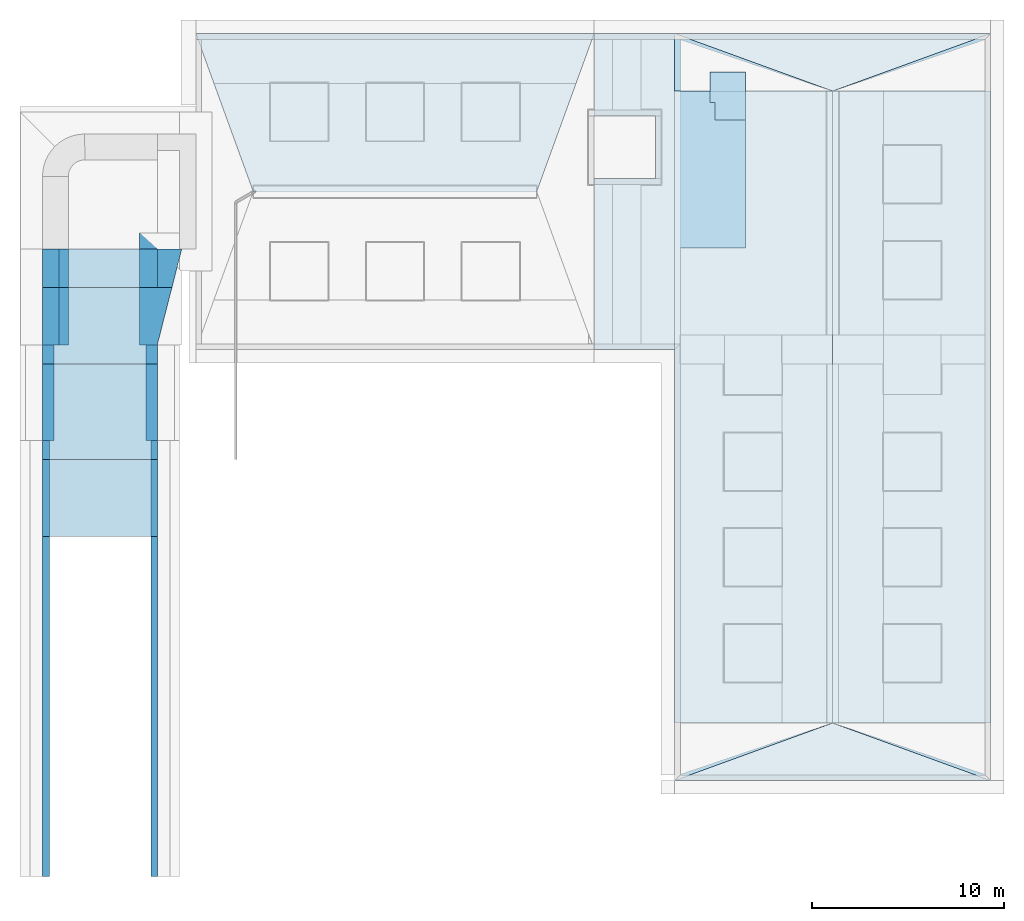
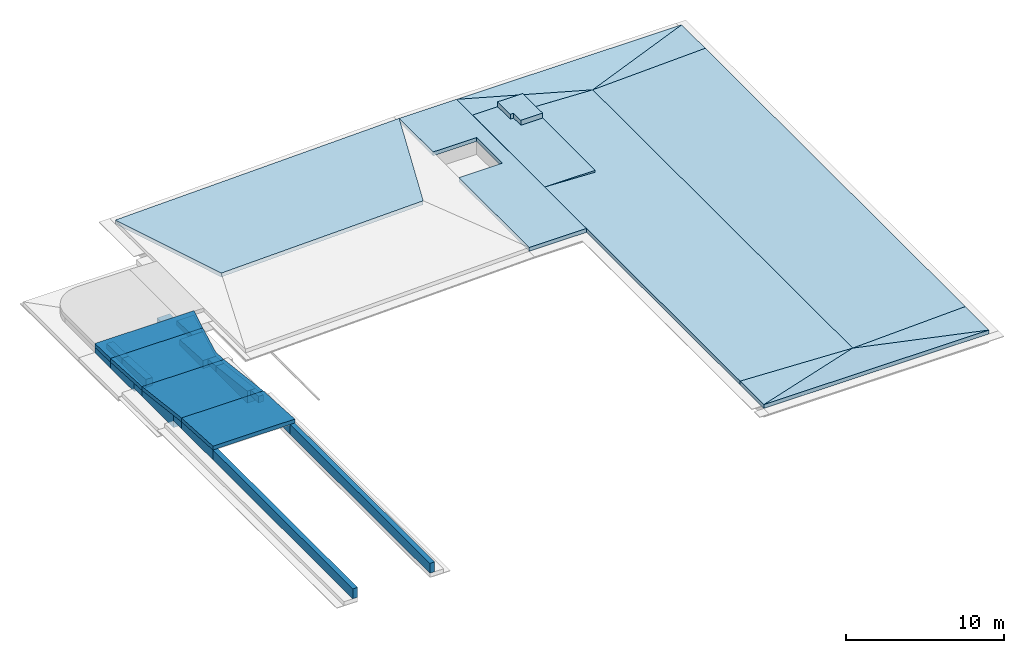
# One storey, part 5 of 8: 21 ramps, 12 slabs.
"""IFC4 building model written with IfcOpenShell, lengths in millimetres."""

from ifc_helpers import new_model, entity, si_unit, converted_unit, derived_unit, direction, frame, origin_with_axes, place, context, subcontext, project, spatial, polygons, material, type_object, element, save


model = new_model("IFC4")

# Units and contexts
model_context = context("Model", 3, precision=0.01, world=origin_with_axes(), true_north=direction((0.0, 1.0)))
body_context = subcontext(model_context, "Body", "Model", "MODEL_VIEW")
ifc_project = project(units=[si_unit("LENGTHUNIT", "METRE", prefix="MILLI"), si_unit("AREAUNIT", "SQUARE_METRE"), si_unit("VOLUMEUNIT", "CUBIC_METRE"), converted_unit("PLANEANGLEUNIT", "DEGREE", entity("IfcPlaneAngleMeasure", 0.0174532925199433), si_unit("PLANEANGLEUNIT", "RADIAN"), dimensions=[0, 0, 0, 0, 0, 0, 0]), converted_unit("TIMEUNIT", "Year", entity("IfcTimeMeasure", 31557600.0), si_unit("TIMEUNIT", "SECOND"), dimensions=[0, 0, 1, 0, 0, 0, 0]), si_unit("MASSUNIT", "GRAM", prefix="KILO"), si_unit("THERMODYNAMICTEMPERATUREUNIT", "DEGREE_CELSIUS"), si_unit("LUMINOUSINTENSITYUNIT", "LUMEN"), si_unit("ENERGYUNIT", "JOULE", prefix="MEGA"), derived_unit("THERMALCONDUCTANCEUNIT", [(si_unit("POWERUNIT", "WATT"), 1), (si_unit("LENGTHUNIT", "METRE"), -1), (si_unit("THERMODYNAMICTEMPERATUREUNIT", "KELVIN"), -1)]), derived_unit("SPECIFICHEATCAPACITYUNIT", [(si_unit("ENERGYUNIT", "JOULE"), 1), (si_unit("MASSUNIT", "GRAM", prefix="KILO"), -1), (si_unit("THERMODYNAMICTEMPERATUREUNIT", "KELVIN"), -1)]), derived_unit("MASSDENSITYUNIT", [(si_unit("MASSUNIT", "GRAM", prefix="KILO"), 1), (si_unit("VOLUMEUNIT", "CUBIC_METRE"), -1)])], contexts=[model_context])

# Site, building, storey
site_placement = place(None, origin_with_axes())
site = spatial("IfcSite", under=ifc_project, at=site_placement, Name="Gelände", CompositionType="ELEMENT")
building_placement = place(site_placement, origin_with_axes())
building = spatial("IfcBuilding", under=site, at=building_placement, Name="Gebäude", CompositionType="ELEMENT")
storey_placement = place(building_placement, frame((0.0, 0.0, -6000.0), z_axis=(0.0, 0.0, 1.0), x_axis=(1.0, 0.0, 0.0)))
storey = spatial("IfcBuildingStorey", under=building, at=storey_placement, Name="Fundation", CompositionType="ELEMENT", Elevation=-6000.0)

# Slabs
ifc_material_1 = material(Name="Beton bewehrt")
slab_type_1 = type_object("IfcSlabType", Name="Beton bewehrt 300", PredefinedType="NOTDEFINED")
slab_1_placement = place(storey_placement, frame((32928.9974447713, 447.5972813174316, 2398.190457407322), z_axis=(0.0, 0.0, 1.0), x_axis=(-1.0, 0.0, 0.0)))
element("IfcSlab", 1, at=slab_1_placement, inside=storey, type_object=slab_type_1, material=ifc_material_1, Name="Dach-009", PredefinedType="NOTDEFINED", context=body_context, shape_type="Tessellation", body=[
    polygons([(8250.000000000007, -2999.999999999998, -28.19045740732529), (16500.00000000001, 0.0, 301.8095425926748), (0.0, 0.0, 301.8095425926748), (8250.000000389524, -2999.999999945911, -329.9999998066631), (16500.00000039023, 3.870073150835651e-07, 2.299582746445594e-07), (3.88823195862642e-07, 3.870073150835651e-07, 2.299582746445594e-07)], [[[1, 2, 3]], [[2, 1, 4, 5]], [[3, 2, 5, 6]], [[1, 3, 6, 4]], [[5, 4, 6]]], closed=True),
])
slab_2_placement = place(storey_placement, frame((24678.99744477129, 447.5972813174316, 2069.760095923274), z_axis=(0.0, 0.0, 1.0), x_axis=(0.0, 1.0, 0.0)))
element("IfcSlab", 2, at=slab_2_placement, inside=storey, type_object=slab_type_1, material=ifc_material_1, Name="Dach-009", PredefinedType="NOTDEFINED", context=body_context, shape_type="Tessellation", body=[
    polygons([(0.0, -8250.000000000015, 630.2399040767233), (2999.999999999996, -8250.00000000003, 630.2399040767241), (3000.0, 0.0, 300.2399040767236), (-3.895839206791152e-07, -8250.000000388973, 330.0000002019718), (2999.999999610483, -8250.000000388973, 330.0000002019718), (2999.999999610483, -4.024514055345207e-08, 1.88022930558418e-07)], [[[1, 2, 3]], [[2, 1, 4, 5]], [[3, 2, 5, 6]], [[1, 3, 6, 4]], [[5, 4, 6]]], closed=True),
])
slab_3_placement = place(storey_placement, frame((16428.99744477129, 39447.59728131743, 2398.190457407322), z_axis=(0.0, 0.0, 1.0), x_axis=(1.0, 0.0, 0.0)))
element("IfcSlab", 3, at=slab_3_placement, inside=storey, type_object=slab_type_1, material=ifc_material_1, Name="Dach-009", PredefinedType="NOTDEFINED", context=body_context, shape_type="Tessellation", body=[
    polygons([(16500.00000000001, 0.0, 301.8095425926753), (0.0, 0.0, 301.8095425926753), (8250.000000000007, -3000.0, -28.19045740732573), (16500.00000039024, 3.870184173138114e-07, 2.299591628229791e-07), (3.888303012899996e-07, 3.870184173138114e-07, 2.299591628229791e-07), (8250.000000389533, -2999.999999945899, -329.9999998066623)], [[[1, 2, 3]], [[2, 1, 4, 5]], [[3, 2, 5, 6]], [[1, 3, 6, 4]], [[5, 4, 6]]], closed=True),
])
slab_4_placement = place(storey_placement, frame((24678.9974447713, 36447.59728131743, 2069.760095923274), z_axis=(0.0, 0.0, 1.0), x_axis=(0.0, 1.0, 0.0)))
element("IfcSlab", 4, at=slab_4_placement, inside=storey, type_object=slab_type_1, material=ifc_material_1, Name="Dach-009", PredefinedType="NOTDEFINED", context=body_context, shape_type="Tessellation", body=[
    polygons([(3000.0, -8250.000000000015, 630.2399040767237), (0.0, 0.0, 300.2399040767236), (0.0, -8250.00000000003, 630.2399040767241), (2999.999999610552, -8250.000000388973, 330.0000002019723), (-3.895195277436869e-07, -4.024514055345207e-08, 1.88022930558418e-07), (-3.895195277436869e-07, -8250.000000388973, 330.0000002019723)], [[[1, 2, 3]], [[2, 1, 4, 5]], [[3, 2, 5, 6]], [[1, 3, 6, 4]], [[5, 4, 6]]], closed=True),
])
slab_5_placement = place(storey_placement, frame((24678.9974447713, 39447.59728131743, 2069.760095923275), z_axis=(0.0, 0.0, 1.0), x_axis=(0.0, -1.0, 0.0)))
element("IfcSlab", 5, at=slab_5_placement, inside=storey, type_object=slab_type_1, material=ifc_material_1, Name="Dach-009", PredefinedType="NOTDEFINED", context=body_context, shape_type="Tessellation", body=[
    polygons([(0.0, -8250.000000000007, 630.2399040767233), (3000.0, -8250.000000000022, 630.2399040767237), (3000.0, 0.0, 300.2399040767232), (-3.895905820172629e-07, -8250.000000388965, 330.0000002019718), (2999.999999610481, -8250.000000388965, 330.0000002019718), (2999.999999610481, -4.023803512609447e-08, 1.88022930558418e-07)], [[[1, 2, 3]], [[2, 1, 4, 5]], [[3, 2, 5, 6]], [[1, 3, 6, 4]], [[5, 4, 6]]], closed=True),
])
slab_6_placement = place(storey_placement, frame((24678.99744477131, 3447.597281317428, 2069.760095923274), z_axis=(0.0, 0.0, 1.0), x_axis=(0.0, 1.0, 0.0)))
element("IfcSlab", 6, at=slab_6_placement, inside=storey, type_object=slab_type_1, material=ifc_material_1, Name="Dach-009", PredefinedType="NOTDEFINED", context=body_context, shape_type="Tessellation", body=[
    polygons([(33000.0, 0.0, 300.2399040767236), (0.0, 0.0, 300.2399040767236), (0.0, -8250.00000000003, 630.2399040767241), (33000.0, -8250.000000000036, 630.239904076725), (32999.99999961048, -4.04405398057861e-08, 1.880313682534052e-07), (-3.895195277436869e-07, -4.04405398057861e-08, 1.880313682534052e-07), (-3.895177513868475e-07, -8250.00000038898, 330.0000002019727), (32999.99999961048, -8250.00000038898, 330.0000002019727)], [[[1, 2, 3, 4]], [[2, 1, 5, 6]], [[3, 2, 6, 7]], [[4, 3, 7, 8]], [[1, 4, 8, 5]], [[6, 5, 8, 7]]], closed=True),
])
slab_7_placement = place(storey_placement, frame((12228.99744477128, 39447.59728131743, 2699.999999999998), z_axis=(0.0, 0.0, 1.0), x_axis=(1.0, 0.0, 0.0)))
element("IfcSlab", 7, at=slab_7_placement, inside=storey, type_object=slab_type_1, material=ifc_material_1, Name="Deckennr.-068", PredefinedType="NOTDEFINED", context=body_context, shape_type="Tessellation", body=[
    polygons([(3.043525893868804, -2.384187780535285e-05, -299.9999999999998), (3.043525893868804, -2.384187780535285e-05, -279.766668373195), (0.0, -2.384187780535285e-05, -279.8574207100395), (0.0, 0.0, 0.0), (4200.000000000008, 0.0, 0.0), (4200.000000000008, 0.0, -299.9999999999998), (3.043525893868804, -300.000023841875, -279.766668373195), (3.043525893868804, -300.000023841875, -299.9999999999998), (0.0, -300.000023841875, -279.857420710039), (0.0, -300.000023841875, -299.9999999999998), (0.0, -4299.999999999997, -299.9999999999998), (0.0, -4299.999999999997, 0.0), (4200.000000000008, -16500.0, 0.0), (3200.000000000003, -4299.999999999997, 0.0), (3200.000000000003, -7574.999999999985, 0.0), (0.0, -7574.999999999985, 0.0), (0.0, -16500.0, 0.0), (4200.000000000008, -16500.0, -299.9999999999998), (0.0, -16500.0, -299.9999999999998), (0.0, -7574.999999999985, -299.9999999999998), (3200.000000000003, -7574.999999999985, -299.9999999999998), (3200.000000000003, -4299.999999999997, -299.9999999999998)], [[[1, 2, 3, 4, 5, 6]], [[7, 2, 1, 8]], [[9, 3, 2, 7]], [[3, 9, 10, 11, 12, 4]], [[13, 5, 4, 12, 14, 15, 16, 17]], [[5, 13, 18, 6]], [[10, 8, 1, 6, 18, 19, 20, 21, 22, 11]], [[7, 8, 10, 9]], [[14, 12, 11, 22]], [[15, 14, 22, 21]], [[16, 15, 21, 20]], [[17, 16, 20, 19]], [[13, 17, 19, 18]]], closed=True),
])
slab_8_placement = place(storey_placement, frame((24678.99744477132, 3447.597281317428, 2069.760095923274), z_axis=(0.0, 0.0, 1.0), x_axis=(0.0, -1.0, 0.0)))
element("IfcSlab", 8, at=slab_8_placement, inside=storey, type_object=slab_type_1, material=ifc_material_1, Name="Dach-009", PredefinedType="NOTDEFINED", context=body_context, shape_type="Tessellation", body=[
    polygons([(2999.999999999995, -8250.000000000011, 630.2399040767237), (0.0, 0.0, 300.2399040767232), (0.0, -8250.000000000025, 630.2399040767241), (2999.999999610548, -8250.000000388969, 330.0000002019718), (-3.895199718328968e-07, -4.024158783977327e-08, 1.88022930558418e-07), (-3.895199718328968e-07, -8250.000000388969, 330.0000002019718)], [[[1, 2, 3]], [[2, 1, 4, 5]], [[3, 2, 5, 6]], [[1, 3, 6, 4]], [[5, 4, 6]]], closed=True),
])
slab_9_placement = place(storey_placement, frame((24678.99744477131, 36447.59728131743, 2069.760095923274), z_axis=(0.0, 0.0, 1.0), x_axis=(0.0, -1.0, 0.0)))
element("IfcSlab", 9, at=slab_9_placement, inside=storey, type_object=slab_type_1, material=ifc_material_1, Name="Dach-009", PredefinedType="NOTDEFINED", context=body_context, shape_type="Tessellation", body=[
    polygons([(0.0, -8250.00000000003, 630.2399040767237), (33000.0, -8250.000000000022, 630.2399040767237), (33000.0, 0.0, 300.2399040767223), (0.0, 0.0, 300.2399040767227), (-3.895195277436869e-07, -8250.000000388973, 330.0000002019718), (32999.99999961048, -8250.000000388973, 330.0000002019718), (32999.99999961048, -4.04334343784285e-08, 1.880300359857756e-07), (-3.895195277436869e-07, -4.04334343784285e-08, 1.880300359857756e-07)], [[[1, 2, 3, 4]], [[2, 1, 5, 6]], [[3, 2, 6, 7]], [[4, 3, 7, 8]], [[1, 4, 8, 5]], [[6, 5, 8, 7]]], closed=True),
])
slab_10_placement = place(storey_placement, frame((13728.998626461, 38005.28956516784, 2399.923207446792), z_axis=(0.0, 0.0, 1.0), x_axis=(-0.7208330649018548, 0.6931087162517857, 0.0)))
element("IfcSlab", 10, at=slab_10_placement, inside=storey, type_object=slab_type_1, material=ifc_material_1, Name="Dach-008", PredefinedType="NOTDEFINED", context=body_context, shape_type="Tessellation", body=[
    polygons([(-1474.721232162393, 8026.199753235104, -33.9616848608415), (2080.926431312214, 0.0008031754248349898, 300.0767591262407), (17074.2541977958, 14416.66208402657, -299.9232074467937), (9193.608059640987, 18284.20868766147, -460.8847357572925), (-1474.721232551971, 8026.199753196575, -334.0384775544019), (2080.92643122, 0.0008027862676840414, -3.355272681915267e-05), (17074.25419787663, 14416.6620843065, -600.0000001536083), (9193.608059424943, 18284.20868742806, -760.9615284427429)], [[[1, 2, 3, 4]], [[2, 1, 5, 6]], [[3, 2, 6, 7]], [[4, 3, 7, 8]], [[1, 4, 8, 5]], [[6, 5, 8, 7]]], closed=True),
])
slab_type_2 = type_object("IfcSlabType", Name="Beton bewehrt 528", PredefinedType="NOTDEFINED")
slab_11_placement = place(storey_placement, frame((18285.42683944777, 37437.5972813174, 3080.000103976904), z_axis=(0.0, 0.0, 1.0), x_axis=(1.0, 0.0, 0.0)))
element("IfcSlab", 11, at=slab_11_placement, inside=storey, type_object=slab_type_2, material=ifc_material_1, Name="Deckennr.-073", PredefinedType="NOTDEFINED", context=body_context, shape_type="Tessellation", body=[
    polygons([(1843.570605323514, -989.9999999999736, -528.0001039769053), (1843.570605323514, 0.0, -528.0001039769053), (1843.570605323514, 0.0, 0.0), (1843.570605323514, -2511.666666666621, 0.0), (1843.570605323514, -2511.666666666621, -528.0001039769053), (0.0, 0.0, -454.257279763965), (0.0, -989.9999999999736, -454.257279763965), (0.0, 0.0, 0.0), (0.0, -1599.999998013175, 0.0), (243.5705982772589, -1599.999998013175, 0.0), (243.5705982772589, -2511.666666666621, 0.0), (243.5705982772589, -2511.666666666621, -528.0001039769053), (0.0, -989.9999999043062, -528.0001039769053), (243.5705982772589, -1599.999998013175, -528.0001039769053), (0.0, -1599.999998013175, -528.0001039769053)], [[[1, 2, 3, 4, 5]], [[6, 2, 1, 7]], [[2, 6, 8, 3]], [[4, 3, 8, 9, 10, 11]], [[4, 11, 12, 5]], [[13, 1, 5, 12, 14, 15]], [[1, 13, 7]], [[7, 13, 15, 9, 8, 6]], [[10, 9, 15, 14]], [[11, 10, 14, 12]]], closed=True),
])
slab_type_3 = type_object("IfcSlabType", Name="Beton bewehrt 147", PredefinedType="NOTDEFINED")
slab_12_placement = place(storey_placement, frame((16428.99744477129, 37437.59727928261, 2699.48564842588), z_axis=(0.0, 0.0, 1.0), x_axis=(1.0, 0.0, 0.0)))
element("IfcSlab", 12, at=slab_12_placement, inside=storey, type_object=slab_type_3, material=ifc_material_1, Name="Deckennr.-073", PredefinedType="NOTDEFINED", context=body_context, shape_type="Tessellation", body=[
    polygons([(0.0, 0.0, 0.0), (0.0, 0.0, -147.485648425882), (0.0, -9189.999997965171, -147.485648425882), (0.0, -9189.999997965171, 0.0), (3700.000008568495, 0.0, 0.0), (3700.000008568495, 0.0, -147.485648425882), (3700.000008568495, -9189.999997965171, -147.485648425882), (3700.000008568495, -9189.999997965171, 0.0)], [[[1, 2, 3, 4]], [[5, 6, 2, 1]], [[3, 2, 6, 7]], [[4, 3, 7, 8]], [[5, 1, 4, 8]], [[8, 7, 6, 5]]], closed=True),
])

# Ramps
ifc_material_2 = material(Name="Magerbeton")
ramp_type_1 = type_object("IfcRampType", Name="Magerbeton 600 x 458", PredefinedType="NOTDEFINED")
ramp_1_placement = place(storey_placement, frame((-16571.00255522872, 22197.59725747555, 1699.691429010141), z_axis=(0.0, 0.0, 1.0), x_axis=(1.0, 0.0, 0.0)))
element("IfcRamp", 13, at=ramp_1_placement, inside=storey, type_object=ramp_type_1, material=ifc_material_2, Name="Unterzug-032", PredefinedType="NOTDEFINED", context=body_context, shape_type="Tessellation", body=[
    polygons([(600.0004971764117, 999.9999999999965, 0.0), (600.000248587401, 0.0, 0.0), (0.0, 0.0, 0.0), (0.0, 999.9999999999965, 0.0), (600.0004971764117, 999.9999999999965, 400.3106753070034), (600.000248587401, 0.0, 458.3900356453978), (0.0, 0.0, 458.3900356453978), (0.0, 999.9999999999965, 400.310675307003)], [[[1, 2, 3, 4]], [[5, 6, 2, 1]], [[6, 7, 3, 2]], [[4, 3, 7, 8]], [[5, 1, 4, 8]], [[8, 7, 6, 5]]], closed=True),
])
ramp_2_placement = place(storey_placement, frame((-10571.00255522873, 22197.59725747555, 1699.691429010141), z_axis=(0.0, 0.0, 1.0), x_axis=(1.0, 0.0, 0.0)))
element("IfcRamp", 14, at=ramp_2_placement, inside=storey, type_object=ramp_type_1, material=ifc_material_2, Name="Unterzug-032", PredefinedType="NOTDEFINED", context=body_context, shape_type="Tessellation", body=[
    polygons([(0.0, 999.9999999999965, 400.310675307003), (-600.0004971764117, 999.9999999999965, 400.3106753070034), (-600.000248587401, 0.0, 458.3900356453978), (0.0, 0.0, 458.3900356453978), (0.0, 999.9999999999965, 0.0), (-600.0004971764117, 999.9999999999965, 0.0), (-600.000248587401, 0.0, 0.0), (0.0, 0.0, 0.0)], [[[1, 2, 3, 4]], [[5, 6, 2, 1]], [[2, 6, 7, 3]], [[3, 7, 8, 4]], [[5, 1, 4, 8]], [[6, 5, 8, 7]]], closed=True),
])
ramp_type_2 = type_object("IfcRampType", Name="Magerbeton 850 x 640", PredefinedType="NOTDEFINED")
ramp_3_placement = place(storey_placement, frame((-16571.00255522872, 23197.59725747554, 1459.999998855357), z_axis=(0.0, 0.0, 1.0), x_axis=(1.0, 0.0, 0.0)))
element("IfcRamp", 15, at=ramp_3_placement, inside=storey, type_object=ramp_type_2, material=ifc_material_2, Name="Unterzug-032", PredefinedType="NOTDEFINED", context=body_context, shape_type="Tessellation", body=[
    polygons([(850.0004516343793, 3000.000034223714, 0.0), (850.0004516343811, 0.0, 0.0), (0.0, 0.0, 0.0), (0.0, 3000.000034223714, 0.0), (850.0004516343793, 3000.000034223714, 459.6914281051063), (850.0004516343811, 0.0, 640.0000070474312), (0.0, 0.0, 640.0000070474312), (0.0, 3000.000034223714, 459.6914281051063)], [[[1, 2, 3, 4]], [[5, 6, 2, 1]], [[6, 7, 3, 2]], [[4, 3, 7, 8]], [[5, 1, 4, 8]], [[8, 7, 6, 5]]], closed=True),
])
ramp_type_3 = type_object("IfcRampType", Name="Magerbeton 850 x 460", PredefinedType="NOTDEFINED")
ramp_4_placement = place(storey_placement, frame((-16571.00255522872, 26197.59729169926, 1459.999998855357), z_axis=(0.0, 0.0, 1.0), x_axis=(1.0, 0.0, 0.0)))
element("IfcRamp", 16, at=ramp_4_placement, inside=storey, type_object=ramp_type_3, material=ifc_material_2, Name="Unterzug-032", PredefinedType="NOTDEFINED", context=body_context, shape_type="Tessellation", body=[
    polygons([(850.0004516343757, 1999.999965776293, 0.0), (850.0004516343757, 0.0, 0.0), (0.0, 0.0, 0.0), (0.0, 1999.999965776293, 0.0), (850.0004516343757, 1999.999965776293, 400.0023354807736), (850.0004516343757, 0.0, 459.6914320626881), (0.0, 0.0, 459.6914320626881), (0.0, 1999.999965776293, 400.0023354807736)], [[[1, 2, 3, 4]], [[5, 6, 2, 1]], [[6, 7, 3, 2]], [[4, 3, 7, 8]], [[5, 1, 4, 8]], [[8, 7, 6, 5]]], closed=True),
])
ramp_type_4 = type_object("IfcRampType", Name="Magerbeton 950 x 460", PredefinedType="NOTDEFINED")
ramp_5_placement = place(storey_placement, frame((-11521.00255522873, 26197.59729169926, 1459.999998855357), z_axis=(0.0, 0.0, 1.0), x_axis=(1.0, 0.0, 0.0)))
element("IfcRamp", 17, at=ramp_5_placement, inside=storey, type_object=ramp_type_4, material=ifc_material_2, Name="Unterzug-032", PredefinedType="NOTDEFINED", context=body_context, shape_type="Tessellation", body=[
    polygons([(0.0, 2849.999965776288, 0.0), (0.0, 2849.999965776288, 399.9999999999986), (949.999999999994, 2849.999965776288, 399.9999999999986), (950.0001027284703, 2849.999965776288, 0.0), (0.0, 1999.999965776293, 427.447767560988), (0.0, 1999.999965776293, 399.9999999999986), (0.0, 0.0, 0.0), (0.0, 0.0, 459.6914320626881), (949.9999999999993, 1999.999965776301, 399.9999999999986), (949.9999999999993, 1999.999965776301, 427.447767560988), (950.000205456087, 0.0, 459.6914320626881), (950.000205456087, 0.0, 0.0)], [[[1, 2, 3, 4]], [[5, 6, 2, 1, 7, 8]], [[6, 9, 3, 2]], [[3, 9, 10, 11, 12, 4]], [[1, 4, 12, 7]], [[6, 5, 10, 9]], [[12, 11, 8, 7]], [[11, 10, 5, 8]]], closed=True),
])
ramp_type_5 = type_object("IfcRampType", Name="Magerbeton 1706 x 640", PredefinedType="NOTDEFINED")
ramp_6_placement = place(storey_placement, frame((-11521.00255522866, 23197.59725747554, 1460.002334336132), z_axis=(0.0, 0.0, 1.0), x_axis=(1.0, 0.0, 0.0)))
element("IfcRamp", 18, at=ramp_6_placement, inside=storey, type_object=ramp_type_5, material=ifc_material_2, Name="Unterzug-032", PredefinedType="NOTDEFINED", context=body_context, shape_type="Tessellation", body=[
    polygons([(945.539401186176, 0.0, 640.0000070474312), (949.9999999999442, 17.58924547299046, 638.9428431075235), (949.9999999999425, 37.69328356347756, 637.7345329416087), (1706.333638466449, 3000.00003422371, 459.6914281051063), (0.0, 3000.000034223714, 459.6914281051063), (0.0, 0.0, 640.0000070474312), (964.0539624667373, 73.0074989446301, 239.6890939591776), (949.9999999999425, 17.58924547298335, 239.6890939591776), (945.539401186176, 0.0, 0.0), (964.0539624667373, 73.0074989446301, -0.002335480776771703), (949.9999999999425, 37.69328356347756, 239.6890939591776), (959.324686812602, 74.2149735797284, -0.002335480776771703), (1706.333638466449, 3000.00003422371, -0.002335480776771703), (959.324686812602, 74.2149735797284, 239.6890939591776), (0.0, 3000.000034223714, 0.0), (0.0, 0.0, 0.0)], [[[1, 2, 3, 4, 5, 6]], [[7, 8, 2, 1, 9, 10]], [[11, 3, 2, 8]], [[12, 13, 4, 3, 11, 14]], [[5, 4, 13, 15]], [[5, 15, 16, 6]], [[9, 1, 6, 16]], [[11, 8, 7, 14]], [[13, 12, 10, 9, 16, 15]], [[14, 7, 10, 12]]], closed=True),
])
ramp_type_6 = type_object("IfcRampType", Name="Magerbeton 600 x 940", PredefinedType="NOTDEFINED")
ramp_7_placement = place(storey_placement, frame((-16571.00255522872, 18197.59725747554, 1699.691429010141), z_axis=(0.0, 0.0, 1.0), x_axis=(1.0, 0.0, 0.0)))
element("IfcRamp", 19, at=ramp_7_placement, inside=storey, type_object=ramp_type_6, material=ifc_material_2, Name="Unterzug-032", PredefinedType="NOTDEFINED", context=body_context, shape_type="Tessellation", body=[
    polygons([(600.000496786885, 4000.000000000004, 0.0), (600.0002481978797, 0.0, 0.0), (0.0, 0.0, 0.0), (0.0, 4000.000000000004, 0.0), (600.000496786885, 4000.000000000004, 458.3899506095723), (600.0002481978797, 0.0, 940.0002157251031), (0.0, 0.0, 940.0002157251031), (0.0, 4000.000000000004, 458.3899506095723)], [[[1, 2, 3, 4]], [[5, 6, 2, 1]], [[6, 7, 3, 2]], [[4, 3, 7, 8]], [[5, 1, 4, 8]], [[8, 7, 6, 5]]], closed=True),
])
ramp_8_placement = place(storey_placement, frame((-10571.00255522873, 18197.59725747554, 1699.691429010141), z_axis=(0.0, 0.0, 1.0), x_axis=(1.0, 0.0, 0.0)))
element("IfcRamp", 20, at=ramp_8_placement, inside=storey, type_object=ramp_type_6, material=ifc_material_2, Name="Unterzug-032", PredefinedType="NOTDEFINED", context=body_context, shape_type="Tessellation", body=[
    polygons([(0.0, 4000.000000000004, 458.3899506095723), (-600.000496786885, 4000.000000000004, 458.3899506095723), (-600.0002481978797, 0.0, 940.0002157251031), (0.0, 0.0, 940.0002157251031), (0.0, 4000.000000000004, 0.0), (-600.000496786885, 4000.000000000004, 0.0), (-600.0002481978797, 0.0, 0.0), (0.0, 0.0, 0.0)], [[[1, 2, 3, 4]], [[5, 6, 2, 1]], [[2, 6, 7, 3]], [[3, 7, 8, 4]], [[5, 1, 4, 8]], [[6, 5, 8, 7]]], closed=True),
])
ramp_type_7 = type_object("IfcRampType", Name="Magerbeton 350 x 765", PredefinedType="NOTDEFINED")
ramp_9_placement = place(storey_placement, frame((-16571.00255522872, 13197.59725747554, 2235.06666524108), z_axis=(0.0, 0.0, 1.0), x_axis=(1.0, 0.0, 0.0)))
element("IfcRamp", 21, at=ramp_9_placement, inside=storey, type_object=ramp_type_7, material=ifc_material_2, Name="Unterzug-032", PredefinedType="NOTDEFINED", context=body_context, shape_type="Tessellation", body=[
    polygons([(350.0000089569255, 4000.000000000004, 0.0), (350.0000089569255, 0.0, 0.0), (0.0, 0.0, 0.0), (0.0, 4000.000000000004, 0.0), (350.0000089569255, 4000.000000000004, 524.6247637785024), (350.0000089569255, 0.0, 764.6909847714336), (0.0, 0.0, 764.6909847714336), (0.0, 4000.000000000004, 524.6247637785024)], [[[1, 2, 3, 4]], [[5, 6, 2, 1]], [[6, 7, 3, 2]], [[4, 3, 7, 8]], [[5, 1, 4, 8]], [[8, 7, 6, 5]]], closed=True),
])
ramp_10_placement = place(storey_placement, frame((-16571.00255522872, -4552.402718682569, 2235.06666524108), z_axis=(0.0, 0.0, 1.0), x_axis=(1.0, 0.0, 0.0)))
element("IfcRamp", 22, at=ramp_10_placement, inside=storey, type_object=ramp_type_7, material=ifc_material_2, Name="Unterzug-032", PredefinedType="NOTDEFINED", context=body_context, shape_type="Tessellation", body=[
    polygons([(0.0, 0.0, 0.0), (0.0, 17749.99997615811, 0.0), (350.0000089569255, 17749.99997615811, 0.0), (350.0000089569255, 0.0, 0.0), (0.0, 0.0, 764.6909847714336), (0.0, 17749.99997615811, 764.6909847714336), (350.0000089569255, 17749.99997615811, 764.6909847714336), (350.0000089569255, 0.0, 764.6909847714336)], [[[1, 2, 3, 4]], [[5, 6, 2, 1]], [[3, 2, 6, 7]], [[4, 3, 7, 8]], [[5, 1, 4, 8]], [[8, 7, 6, 5]]], closed=True),
])
ramp_11_placement = place(storey_placement, frame((-10571.00255522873, -4552.402718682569, 2235.06666524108), z_axis=(0.0, 0.0, 1.0), x_axis=(1.0, 0.0, 0.0)))
element("IfcRamp", 23, at=ramp_11_placement, inside=storey, type_object=ramp_type_7, material=ifc_material_2, Name="Unterzug-032", PredefinedType="NOTDEFINED", context=body_context, shape_type="Tessellation", body=[
    polygons([(-350.0000089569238, 17749.99997615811, 764.6909847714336), (-350.0000089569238, 0.0, 764.6909847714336), (0.0, 0.0, 764.6909847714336), (0.0, 17749.99997615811, 764.6909847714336), (-350.0000089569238, 17749.99997615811, 0.0), (-350.0000089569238, 0.0, 0.0), (0.0, 0.0, 0.0), (0.0, 17749.99997615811, 0.0)], [[[1, 2, 3, 4]], [[5, 6, 2, 1]], [[2, 6, 7, 3]], [[4, 3, 7, 8]], [[8, 5, 1, 4]], [[8, 7, 6, 5]]], closed=True),
])
ramp_12_placement = place(storey_placement, frame((-10571.00255522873, 13197.59725747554, 2235.06666524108), z_axis=(0.0, 0.0, 1.0), x_axis=(1.0, 0.0, 0.0)))
element("IfcRamp", 24, at=ramp_12_placement, inside=storey, type_object=ramp_type_7, material=ifc_material_2, Name="Unterzug-032", PredefinedType="NOTDEFINED", context=body_context, shape_type="Tessellation", body=[
    polygons([(-350.0000089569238, 4000.000000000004, 524.6247637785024), (-350.0000089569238, 0.0, 764.6909847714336), (0.0, 0.0, 764.6909847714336), (0.0, 4000.000000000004, 524.6247637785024), (-350.0000089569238, 4000.000000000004, 0.0), (-350.0000089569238, 0.0, 0.0), (0.0, 0.0, 0.0), (0.0, 4000.000000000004, 0.0)], [[[1, 2, 3, 4]], [[5, 6, 2, 1]], [[6, 7, 3, 2]], [[4, 3, 7, 8]], [[5, 1, 4, 8]], [[8, 7, 6, 5]]], closed=True),
])
ramp_type_8 = type_object("IfcRampType", Name="Magerbeton 350 x 525", PredefinedType="NOTDEFINED")
ramp_13_placement = place(storey_placement, frame((-16571.00255522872, 17197.59725747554, 2235.06666524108), z_axis=(0.0, 0.0, 1.0), x_axis=(1.0, 0.0, 0.0)))
element("IfcRamp", 25, at=ramp_13_placement, inside=storey, type_object=ramp_type_8, material=ifc_material_2, Name="Unterzug-032", PredefinedType="NOTDEFINED", context=body_context, shape_type="Tessellation", body=[
    polygons([(350.0000089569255, 1000.0, 0.0), (350.0000089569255, 0.0, 0.0), (0.0, 0.0, 0.0), (0.0, 1000.0, 0.0), (350.0000089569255, 1000.0, 404.6247642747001), (350.0000089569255, 0.0, 524.62477648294), (0.0, 0.0, 524.62477648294), (0.0, 1000.0, 404.6247642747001)], [[[1, 2, 3, 4]], [[5, 6, 2, 1]], [[6, 7, 3, 2]], [[4, 3, 7, 8]], [[5, 1, 4, 8]], [[8, 7, 6, 5]]], closed=True),
])
ramp_14_placement = place(storey_placement, frame((-10571.00255522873, 17197.59725747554, 2235.06666524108), z_axis=(0.0, 0.0, 1.0), x_axis=(1.0, 0.0, 0.0)))
element("IfcRamp", 26, at=ramp_14_placement, inside=storey, type_object=ramp_type_8, material=ifc_material_2, Name="Unterzug-032", PredefinedType="NOTDEFINED", context=body_context, shape_type="Tessellation", body=[
    polygons([(-350.0000089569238, 1000.0, 404.6247642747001), (-350.0000089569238, 0.0, 524.6247764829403), (0.0, 0.0, 524.62477648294), (0.0, 1000.0, 404.6247642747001), (-350.0000089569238, 1000.0, 0.0), (-350.0000089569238, 0.0, 0.0), (0.0, 0.0, 0.0), (0.0, 1000.0, 0.0)], [[[1, 2, 3, 4]], [[5, 6, 2, 1]], [[6, 7, 3, 2]], [[4, 3, 7, 8]], [[5, 1, 4, 8]], [[8, 7, 6, 5]]], closed=True),
])
ramp_type_9 = type_object("IfcRampType", Name="Magerbeton 500 x 640", PredefinedType="NOTDEFINED")
ramp_15_placement = place(storey_placement, frame((-15721.00210359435, 23197.59725747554, 1459.999998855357), z_axis=(0.0, 0.0, 1.0), x_axis=(1.0, 0.0, 0.0)))
element("IfcRamp", 27, at=ramp_15_placement, inside=storey, type_object=ramp_type_9, material=ifc_material_2, Name="Unterzug-032", PredefinedType="NOTDEFINED", context=body_context, shape_type="Tessellation", body=[
    polygons([(499.9999144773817, 3000.000034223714, 0.0), (500.0000975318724, 0.0, 0.0), (0.0, 0.0, 0.0), (0.0, 3000.000034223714, 0.0), (499.9999144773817, 3000.000034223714, 459.6914281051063), (500.0000975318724, 0.0, 640.0000070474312), (0.0, 0.0, 640.0000070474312), (0.0, 3000.000034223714, 459.6914281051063)], [[[1, 2, 3, 4]], [[5, 6, 2, 1]], [[6, 7, 3, 2]], [[4, 3, 7, 8]], [[5, 1, 4, 8]], [[8, 7, 6, 5]]], closed=True),
])
ramp_type_10 = type_object("IfcRampType", Name="Magerbeton 500 x 460", PredefinedType="NOTDEFINED")
ramp_16_placement = place(storey_placement, frame((-15721.00210359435, 26197.59729169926, 1459.999998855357), z_axis=(0.0, 0.0, 1.0), x_axis=(1.0, 0.0, 0.0)))
element("IfcRamp", 28, at=ramp_16_placement, inside=storey, type_object=ramp_type_10, material=ifc_material_2, Name="Unterzug-032", PredefinedType="NOTDEFINED", context=body_context, shape_type="Tessellation", body=[
    polygons([(499.9997314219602, 1999.999965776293, 0.0), (499.9999144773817, 0.0, 0.0), (0.0, 0.0, 0.0), (0.0, 1999.999965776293, 0.0), (499.9997314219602, 1999.999965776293, 400.0023354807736), (499.9999144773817, 0.0, 459.6914320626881), (0.0, 0.0, 459.6914320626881), (0.0, 1999.999965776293, 400.0023354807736)], [[[1, 2, 3, 4]], [[5, 6, 2, 1]], [[6, 7, 3, 2]], [[4, 3, 7, 8]], [[5, 1, 4, 8]], [[8, 7, 6, 5]]], closed=True),
])
ramp_type_11 = type_object("IfcRampType", Name="Magerbeton 1267 x 460", PredefinedType="NOTDEFINED")
ramp_17_placement = place(storey_placement, frame((-10571.00234977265, 26197.59729169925, 1459.999998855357), z_axis=(0.0, 0.0, 1.0), x_axis=(1.0, 0.0, 0.0)))
element("IfcRamp", 29, at=ramp_17_placement, inside=storey, type_object=ramp_type_11, material=ifc_material_2, Name="Unterzug-032", PredefinedType="NOTDEFINED", context=body_context, shape_type="Tessellation", body=[
    polygons([(756.3334332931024, 0.0, 459.6915060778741), (756.3334332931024, 0.0, 0.0), (1149.999794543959, 1541.859922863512, 0.0), (1149.999794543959, 1541.859922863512, 365.499999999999), (1266.971719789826, 1999.999965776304, 365.499999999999), (0.0, 0.0, 0.0), (0.0, 0.0, 459.6915060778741), (0.0, 1999.999965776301, 0.0), (1149.999794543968, 1999.999965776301, 0.0), (1149.999794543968, 1999.999965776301, 365.499999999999), (0.0, 1999.999965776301, 365.5003778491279)], [[[1, 2, 3, 4, 5]], [[6, 2, 1, 7]], [[6, 8, 9, 3, 2]], [[4, 3, 9, 10]], [[5, 4, 10]], [[7, 1, 5, 10, 11]], [[7, 11, 8, 6]], [[8, 11, 10, 9]]], closed=True),
])
ramp_type_12 = type_object("IfcRampType", Name="Beton bewehrt 300", PredefinedType="NOTDEFINED")
ramp_18_placement = place(storey_placement, frame((-16571.00255522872, 13197.59725747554, 2999.69142901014), z_axis=(0.0, 0.0, 1.0), x_axis=(1.0, 0.0, 0.0)))
element("IfcRamp", 30, at=ramp_18_placement, inside=storey, type_object=ramp_type_12, material=ifc_material_1, Name="Dach-008", PredefinedType="NOTDEFINED", context=body_context, shape_type="Tessellation", body=[
    polygons([(5999.999999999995, 4000.0, 60.35643432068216), (0.0, 4000.0, 60.35643432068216), (0.0, 0.0, 300.3564343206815), (5999.999999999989, 0.0, 300.3564343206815), (5999.999999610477, 3999.999999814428, -240.0000001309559), (-3.895230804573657e-07, 3999.999999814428, -240.0000001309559), (-3.895230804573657e-07, -3.884252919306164e-07, -1.187849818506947e-07), (5999.999999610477, -3.884252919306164e-07, -1.187849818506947e-07)], [[[1, 2, 3, 4]], [[2, 1, 5, 6]], [[3, 2, 6, 7]], [[4, 3, 7, 8]], [[1, 4, 8, 5]], [[6, 5, 8, 7]]], closed=True),
])
ramp_19_placement = place(storey_placement, frame((-16571.00255522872, 22197.59725747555, 2158.079646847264), z_axis=(0.0, 0.0, 1.0), x_axis=(1.0, 0.0, 0.0)))
element("IfcRamp", 31, at=ramp_19_placement, inside=storey, type_object=ramp_type_12, material=ifc_material_1, Name="Dach-008", PredefinedType="NOTDEFINED", context=body_context, shape_type="Tessellation", body=[
    polygons([(6000.0, 0.0, 301.9682164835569), (0.0, 0.0, 301.9682164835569), (0.0, -4999.999999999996, 901.968216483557), (5999.999999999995, -5000.0, 901.9682164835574), (5999.99999961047, -1.338058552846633e-07, -1.2679590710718e-07), (-3.895301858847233e-07, -1.338058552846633e-07, -1.2679590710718e-07), (-3.895301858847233e-07, -5000.000000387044, 599.9999999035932), (5999.99999961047, -5000.000000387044, 599.9999999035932)], [[[1, 2, 3, 4]], [[2, 1, 5, 6]], [[3, 2, 6, 7]], [[4, 3, 7, 8]], [[1, 4, 8, 5]], [[6, 5, 8, 7]]], closed=True),
])
ramp_20_placement = place(storey_placement, frame((-16571.00255522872, 22197.59725747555, 2159.69142901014), z_axis=(0.0, 0.0, 1.0), x_axis=(1.0, 0.0, 0.0)))
element("IfcRamp", 32, at=ramp_20_placement, inside=storey, type_object=ramp_type_12, material=ifc_material_1, Name="Dach-008", PredefinedType="NOTDEFINED", context=body_context, shape_type="Tessellation", body=[
    polygons([(0.0, 4000.00003422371, 60.35643226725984), (0.0, 0.0, 300.356434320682), (5999.999950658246, 0.0, 300.356434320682), (5999.999999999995, 1037.693283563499, 238.0948373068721), (6756.333629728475, 4000.00003422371, 60.35643226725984), (-3.895230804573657e-07, 4000.000034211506, -240.0000021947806), (-3.895230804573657e-07, -3.884217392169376e-07, -1.187849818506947e-07), (5999.999951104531, -3.884217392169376e-07, -1.187849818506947e-07), (6000.000000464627, 1037.693286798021, -62.26159734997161), (6756.33363014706, 4000.000034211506, -240.0000021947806)], [[[1, 2, 3, 4, 5]], [[2, 1, 6, 7]], [[3, 2, 7, 8]], [[4, 3, 8, 9]], [[5, 4, 9, 10]], [[1, 5, 10, 6]], [[7, 6, 10, 9, 8]]], closed=True),
])
ramp_21_placement = place(storey_placement, frame((-16571.00255522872, 26197.59725747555, 1920.09572780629), z_axis=(0.0, 0.0, 1.0), x_axis=(1.0, 0.0, 0.0)))
element("IfcRamp", 33, at=ramp_21_placement, inside=storey, type_object=ramp_type_12, material=ifc_material_1, Name="Dach-008", PredefinedType="NOTDEFINED", context=body_context, shape_type="Tessellation", body=[
    polygons([(7266.971927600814, 2000.000000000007, 239.9521355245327), (0.0, 2000.000000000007, 239.9521355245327), (0.0, 0.0, 299.9521355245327), (6756.33362972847, 0.0, 299.9521355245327), (7266.971927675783, 2000.000000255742, -60.00000014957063), (-3.895159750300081e-07, 2000.000000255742, -60.00000014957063), (-3.895159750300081e-07, -3.896829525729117e-07, -1.302087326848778e-07), (6756.333630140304, -3.896829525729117e-07, -1.302087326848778e-07)], [[[1, 2, 3, 4]], [[2, 1, 5, 6]], [[3, 2, 6, 7]], [[4, 3, 7, 8]], [[1, 4, 8, 5]], [[6, 5, 8, 7]]], closed=True),
])

save(model, "model.ifc")
